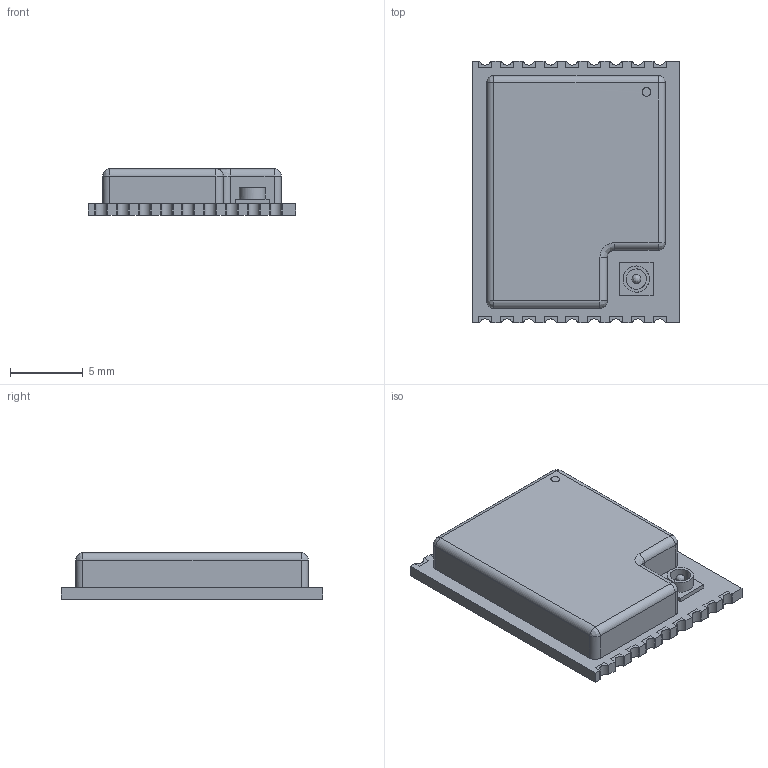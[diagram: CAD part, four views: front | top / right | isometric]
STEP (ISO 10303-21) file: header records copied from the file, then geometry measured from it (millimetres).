
FILE_DESCRIPTION (( 'STEP AP214' ), '1' );
FILE_NAME ('esp32-c3-wroom-02u-n4.stp', '2026-05-14T16:18:06', ( '' ), ( '' ), 'SwSTEP 2.0', 'SolidWorks 2017', '' );
FILE_SCHEMA (( 'AUTOMOTIVE_DESIGN' ));
Length unit declared in the file: millimetre
Products named in the file (1): esp32-c3-wroom-02u-n4
Bounding box: 14.3 x 18 x 3.2 mm (x, y, z)
Volume: 637.2 mm3; surface area: 765.1 mm2
Topology: 28 solids, 28 shells, 363 faces, 870 edges, 571 vertices
Faces by surface type: plane 320, cylinder 36, bspline 7
Entity records: 13853 total; most frequent: CARTESIAN_POINT 2265, ORIENTED_EDGE 1726, DIRECTION 1611, EDGE_CURVE 863, VECTOR 785, LINE 785, VERTEX_POINT 571, AXIS2_PLACEMENT_3D 413
